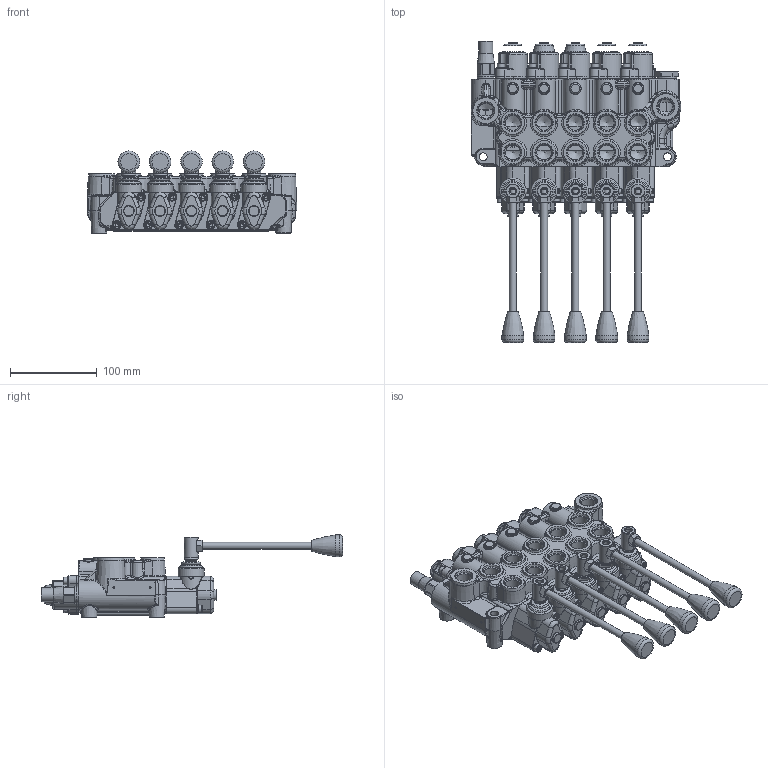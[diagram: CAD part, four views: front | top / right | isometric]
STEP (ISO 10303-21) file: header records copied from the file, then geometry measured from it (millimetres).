
FILE_DESCRIPTION(/* description */ ('FIVE SPOOL VALVE ASSY'),/* implementation_level */ '2;1');
FILE_NAME(/* name */ 'Q:\WVS51BBBBB5C1.stp',/* time_stamp */ '2020-01-13T09:22:25-06:00',/* author */ ('PetersW'),/* organization */ ('PRINCE MFG CORP'),/* preprocessor_version */ 'ST-DEVELOPER v18',/* originating_system */ 'Autodesk Inventor 2020',/* authorisation */ '');
FILE_SCHEMA (('AUTOMOTIVE_DESIGN { 1 0 10303 214 3 1 1 }'));
Products named in the file (1): WVS51BBBBB5C1
Bounding box: 241.43 x 346.5 x 94.5 mm (x, y, z)
Surface area: 247280.2 mm2 (no closed solid volume)
Topology: 0 solids, 132 shells, 2519 faces, 7045 edges, 4454 vertices
Faces by surface type: plane 632, bspline 586, cylinder 560, torus 356, cone 328, sphere 57
Full cylindrical faces by diameter (mm): 4 x1, 6 x15, 6.647 x11, 8 x10, 8.5 x20, 9 x3, 9.5 x20, 10 x5, 11.8 x1, 12 x6, 12.5 x5, 16 x6, 17.33 x13, 19.6 x1, 20 x2, 20.6 x1, 22 x1, 23 x1, 25 x5, 26 x6, 28 x1, 30 x5
Entity records: 124686 total; most frequent: CARTESIAN_POINT 60947, DIRECTION 12950, ORIENTED_EDGE 12482, EDGE_CURVE 6938, AXIS2_PLACEMENT_3D 5577, VERTEX_POINT 4454, CIRCLE 3363, EDGE_LOOP 2732
